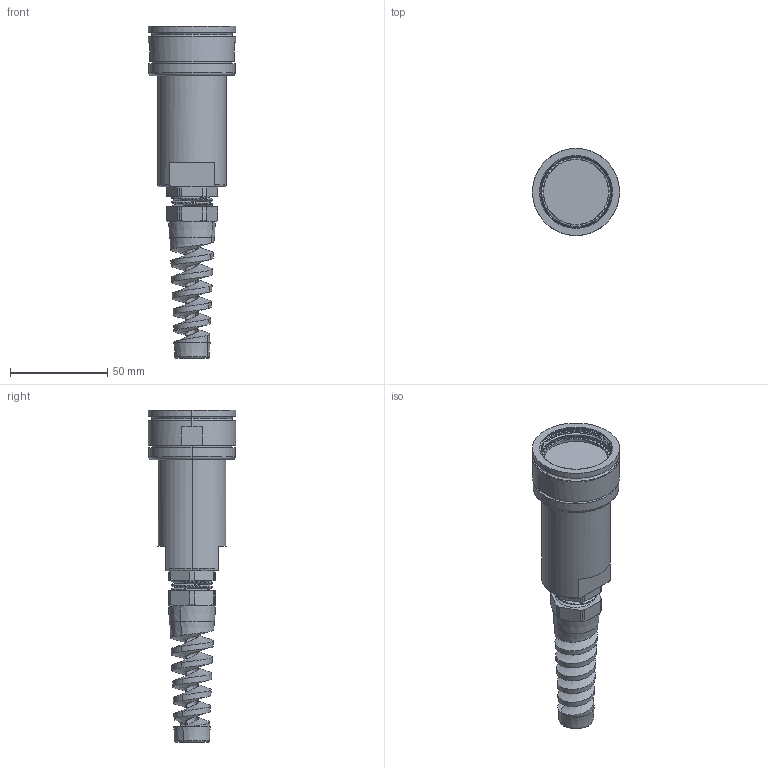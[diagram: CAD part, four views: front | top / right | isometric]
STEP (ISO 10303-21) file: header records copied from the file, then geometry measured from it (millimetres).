
FILE_DESCRIPTION (( 'STEP AP214' ), '1' );
FILE_NAME ('Q38SHELL-STX-25-XXXX-GB.STEP', '2025-09-09T22:24:49', ( '' ), ( '' ), 'SwSTEP 2.0', 'SolidWorks 2024', '' );
FILE_SCHEMA (( 'AUTOMOTIVE_DESIGN' ));
Length unit declared in the file: millimetre
Products named in the file (1): Q38SHELL-STX-25-XXXX-GB
Bounding box: 44.88 x 44.88 x 171.07 mm (x, y, z)
Volume: 107237.2 mm3; surface area: 26570.7 mm2
Topology: 2 solids, 2 shells, 345 faces, 1078 edges, 751 vertices
Faces by surface type: plane 216, cylinder 69, cone 38, torus 15, bspline 7
Entity records: 17166 total; most frequent: CARTESIAN_POINT 8215, ORIENTED_EDGE 2156, DIRECTION 1647, EDGE_CURVE 1078, VERTEX_POINT 751, AXIS2_PLACEMENT_3D 670, EDGE_LOOP 363, FACE_OUTER_BOUND 345
